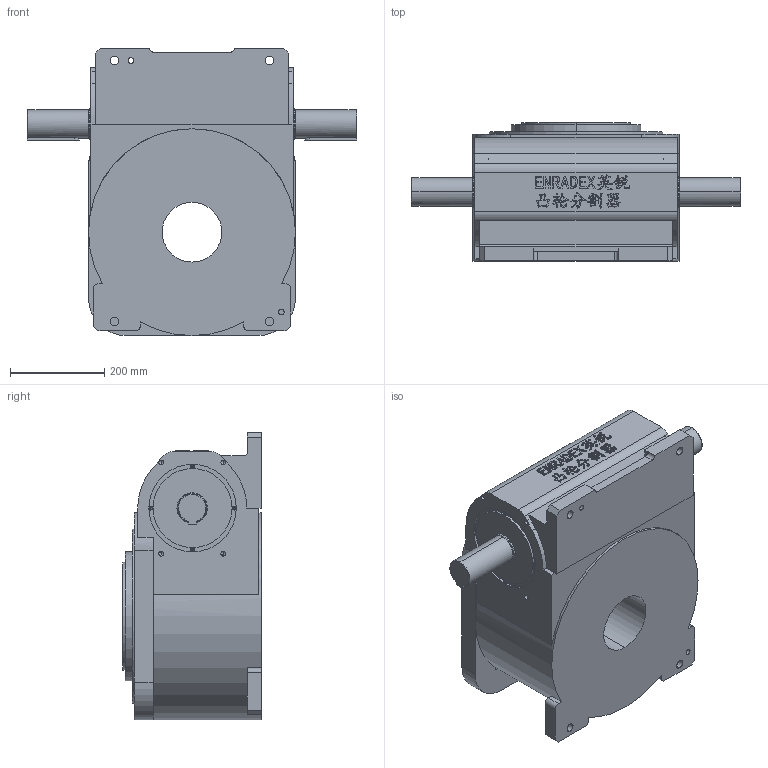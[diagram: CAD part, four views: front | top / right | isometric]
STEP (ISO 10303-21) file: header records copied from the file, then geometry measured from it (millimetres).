
FILE_DESCRIPTION (( 'STEP AP214' ), '1' );
FILE_NAME ('ER-RU230DA英锐凸轮分割器3D固定盘壳体和法兰面加销孔标准图纸(电话15062628977)AACC.STEP', '2022-10-31T04:26:40', ( '微软用户' ), ( '微软中国' ), 'SwSTEP 2.0', 'SolidWorks 2017', '' );
FILE_SCHEMA (( 'AUTOMOTIVE_DESIGN' ));
Length unit declared in the file: millimetre
Products named in the file (1): ER-RU230DA英锐凸轮分割器3D固定盘壳体和法兰面加销孔标准图纸(电话15062628977)AACC
Bounding box: 700 x 295 x 611 mm (x, y, z)
Volume: 59346167.9 mm3; surface area: 1259599.7 mm2
Topology: 13 solids, 13 shells, 695 faces, 1640 edges, 1027 vertices
Faces by surface type: plane 331, bspline 165, cylinder 148, cone 48, torus 3
Entity records: 38550 total; most frequent: CARTESIAN_POINT 19304, ORIENTED_EDGE 3200, DIRECTION 2682, EDGE_CURVE 1600, VERTEX_POINT 1027, VECTOR 936, LINE 936, AXIS2_PLACEMENT_3D 873
